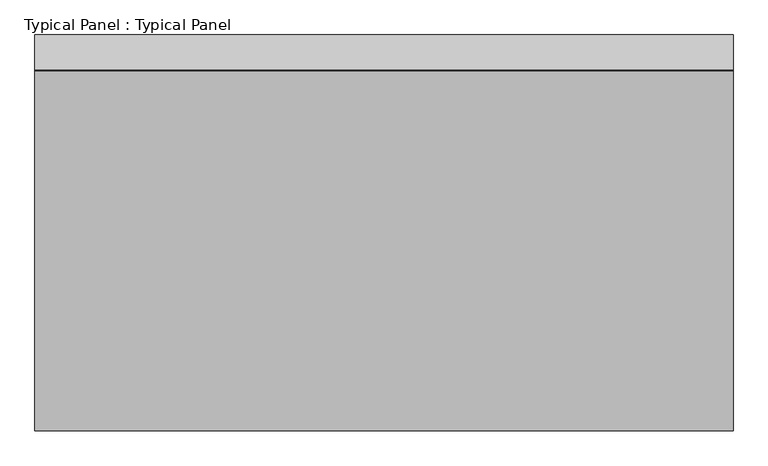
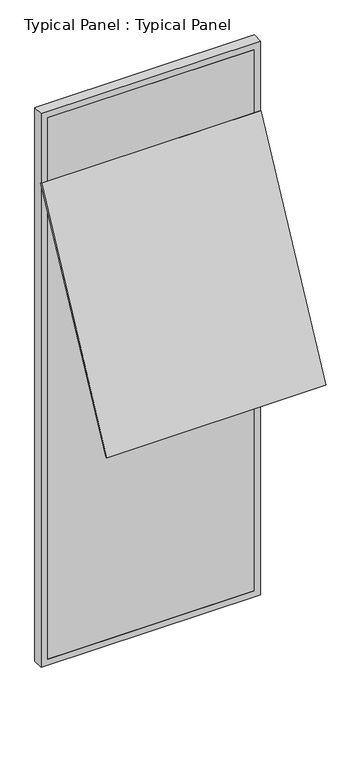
"""IFC4 building model written with IfcOpenShell, lengths in millimetres: plate geometry, Typical Panel : Typical Panel."""

from ifc_helpers import new_model, si_unit, frame, origin, place, context, project, spatial, polyline, outline, extrude, source, transform, mapped, element, save


def typical_panel_typical_panel_2061968d(model_context):
    return source(origin(), model_context, "Body", "SweptSolid", [
        extrude(outline(polyline([(0.0, -10.0000001), (0.0, 0.0), (1500.0, 0.0), (1500.0, -10.0000001), (0.0, -10.0000001)])), frame((750.0, -776.7838496, 1985.2889089), z_axis=(0.0, 0.45399049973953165, 0.8910065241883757), x_axis=(-1.0, 0.0, 0.0)), (0.0, 0.0, 1.0), 1700.0),
        extrude(outline(polyline([(0.0, -750.0), (0.0, 750.0), (4000.0, 750.0), (4000.0, -750.0), (0.0, -750.0)]), holes=[polyline([(45.0, 705.0), (45.0, -705.0), (3955.0, -705.0), (3955.0, 705.0), (45.0, 705.0)])]), frame((0.0, -1.5797986, 0.0), z_axis=(0.0, 1.0, 0.0), x_axis=(0.0, 0.0, 1.0)), (0.0, 0.0, 1.0), 75.0),
        extrude(outline(polyline([(705.0, -1.5797986), (-705.0, -1.5797986), (-705.0, 13.4202014), (705.0, 13.4202014), (705.0, -1.5797986)])), frame((0.0, 0.0, 45.0), z_axis=(0.0, 0.0, 1.0), x_axis=(1.0, 0.0, 0.0)), (0.0, 0.0, 1.0), 3910.0),
    ])


if __name__ == "__main__":
    model = new_model("IFC4")
    model_context = context("Model", 3, world=origin())
    ifc_project = project(units=[si_unit("LENGTHUNIT", "METRE", prefix="MILLI")], contexts=[model_context])
    site = spatial("IfcSite", under=ifc_project)
    building = spatial("IfcBuilding", under=site)
    placement = place(None, origin())
    typical_panel_typical_panel_shape = typical_panel_typical_panel_2061968d(model_context)
    element("IfcPlate", 1, ObjectType="Typical Panel : Typical Panel", at=placement, inside=building, context=model_context, shape_type="MappedRepresentation", body=[
        mapped(typical_panel_typical_panel_shape, transform((0.0, 0.0, 0.0), x_axis=(1.0, 0.0, 0.0), y_axis=(0.0, 1.0, 0.0), z_axis=(0.0, 0.0, 1.0))),
    ])
    save(model, "model.ifc")
